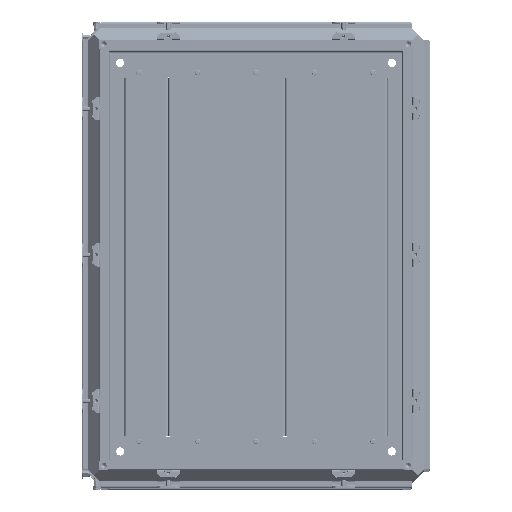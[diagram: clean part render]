
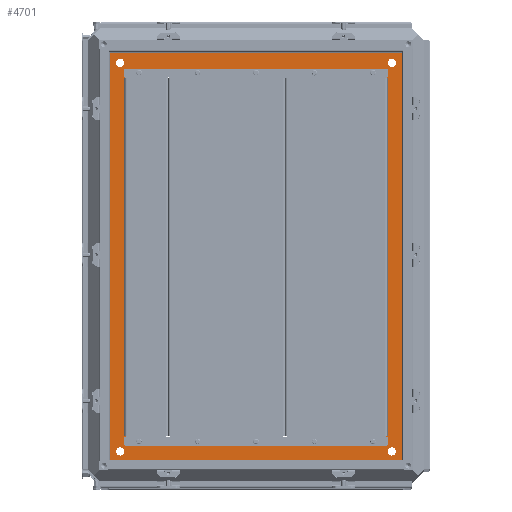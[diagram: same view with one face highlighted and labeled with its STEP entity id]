
A CAD part, top view. The second image highlights one B-rep face of the part: STEP entity #4701.
In plain terms, the highlighted planar face has unit normal (0, 0, 1).
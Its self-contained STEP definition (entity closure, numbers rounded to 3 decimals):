
#4701=ADVANCED_FACE('',(#18835,#18837,#18839,#18841,#18843,#18845),#18847,.F.);
#18835=FACE_BOUND('',#18836,.T.);
#18836=EDGE_LOOP('',(#128903,#128904,#128905,#128906));
#18837=FACE_BOUND('',#18838,.T.);
#18838=EDGE_LOOP('',(#128907,#128908,#128909,#128910));
#18839=FACE_BOUND('',#18840,.T.);
#18840=EDGE_LOOP('',(#128911));
#18841=FACE_BOUND('',#18842,.T.);
#18842=EDGE_LOOP('',(#128912));
#18843=FACE_BOUND('',#18844,.T.);
#18844=EDGE_LOOP('',(#128913));
#18845=FACE_BOUND('',#18846,.T.);
#18846=EDGE_LOOP('',(#128914));
#18847=PLANE('',#18848);
#18848=AXIS2_PLACEMENT_3D('',#18849,#18850,#18851);
#18849=CARTESIAN_POINT('',(0.,0.,-47.5));
#18850=DIRECTION('',(0.,0.,-1.));
#18851=DIRECTION('',(0.,1.,0.));
#128903=ORIENTED_EDGE('',*,*,#195973,.F.);
#128904=ORIENTED_EDGE('',*,*,#195974,.F.);
#128905=ORIENTED_EDGE('',*,*,#195975,.T.);
#128906=ORIENTED_EDGE('',*,*,#195976,.T.);
#128907=ORIENTED_EDGE('',*,*,#195977,.T.);
#128908=ORIENTED_EDGE('',*,*,#195978,.F.);
#128909=ORIENTED_EDGE('',*,*,#195979,.F.);
#128910=ORIENTED_EDGE('',*,*,#195980,.F.);
#128911=ORIENTED_EDGE('',*,*,#195981,.T.);
#128912=ORIENTED_EDGE('',*,*,#195982,.F.);
#128913=ORIENTED_EDGE('',*,*,#195983,.F.);
#128914=ORIENTED_EDGE('',*,*,#195984,.T.);
#195973=EDGE_CURVE('',#230424,#230425,#230426,.F.);
#195974=EDGE_CURVE('',#230427,#230424,#230428,.F.);
#195975=EDGE_CURVE('',#230427,#230429,#230430,.F.);
#195976=EDGE_CURVE('',#230429,#230425,#230431,.F.);
#195977=EDGE_CURVE('',#230432,#230433,#230434,.F.);
#195978=EDGE_CURVE('',#230435,#230433,#230436,.F.);
#195979=EDGE_CURVE('',#230437,#230435,#230438,.F.);
#195980=EDGE_CURVE('',#230432,#230437,#230439,.F.);
#195981=EDGE_CURVE('',#230440,#230440,#230441,.T.);
#195982=EDGE_CURVE('',#230442,#230442,#230443,.T.);
#195983=EDGE_CURVE('',#230444,#230444,#230445,.T.);
#195984=EDGE_CURVE('',#230446,#230446,#230447,.T.);
#230424=VERTEX_POINT('',#290345);
#230425=VERTEX_POINT('',#290346);
#230426=LINE('',#290347,#290348);
#230427=VERTEX_POINT('',#290350);
#230428=LINE('',#290351,#290352);
#230429=VERTEX_POINT('',#290354);
#230430=LINE('',#290355,#290356);
#230431=LINE('',#290358,#290359);
#230432=VERTEX_POINT('',#290361);
#230433=VERTEX_POINT('',#290362);
#230434=LINE('',#290363,#290364);
#230435=VERTEX_POINT('',#290366);
#230436=LINE('',#290367,#290368);
#230437=VERTEX_POINT('',#290370);
#230438=LINE('',#290371,#290372);
#230439=LINE('',#290374,#290375);
#230440=VERTEX_POINT('',#290377);
#230441=CIRCLE('',#290378,7.);
#230442=VERTEX_POINT('',#290382);
#230443=CIRCLE('',#290383,7.);
#230444=VERTEX_POINT('',#290387);
#230445=CIRCLE('',#290388,7.);
#230446=VERTEX_POINT('',#290392);
#230447=CIRCLE('',#290393,7.);
#290345=CARTESIAN_POINT('',(-1.6,1.6,-47.5));
#290346=CARTESIAN_POINT('',(-500.4,1.6,-47.5));
#290347=CARTESIAN_POINT('',(-500.4,1.6,-47.5));
#290348=VECTOR('',#290349,1.);
#290349=DIRECTION('',(1.,0.,0.));
#290350=CARTESIAN_POINT('',(-1.6,700.4,-47.5));
#290351=CARTESIAN_POINT('',(-1.6,1.6,-47.5));
#290352=VECTOR('',#290353,1.);
#290353=DIRECTION('',(0.,1.,0.));
#290354=CARTESIAN_POINT('',(-500.4,700.4,-47.5));
#290355=CARTESIAN_POINT('',(-500.4,700.4,-47.5));
#290356=VECTOR('',#290357,1.);
#290357=DIRECTION('',(1.,0.,0.));
#290358=CARTESIAN_POINT('',(-500.4,1.6,-47.5));
#290359=VECTOR('',#290360,1.);
#290360=DIRECTION('',(0.,1.,0.));
#290361=CARTESIAN_POINT('',(-39.4,39.4,-47.5));
#290362=CARTESIAN_POINT('',(-462.6,39.4,-47.5));
#290363=CARTESIAN_POINT('',(-462.6,39.4,-47.5));
#290364=VECTOR('',#290365,1.);
#290365=DIRECTION('',(1.,0.,0.));
#290366=CARTESIAN_POINT('',(-462.6,662.6,-47.5));
#290367=CARTESIAN_POINT('',(-462.6,39.4,-47.5));
#290368=VECTOR('',#290369,1.);
#290369=DIRECTION('',(0.,1.,0.));
#290370=CARTESIAN_POINT('',(-39.4,662.6,-47.5));
#290371=CARTESIAN_POINT('',(-462.6,662.6,-47.5));
#290372=VECTOR('',#290373,1.);
#290373=DIRECTION('',(1.,0.,0.));
#290374=CARTESIAN_POINT('',(-39.4,662.6,-47.5));
#290375=VECTOR('',#290376,1.);
#290376=DIRECTION('',(0.,-1.,0.));
#290377=CARTESIAN_POINT('',(-18.5,25.5,-47.5));
#290378=AXIS2_PLACEMENT_3D('',#290379,#290380,#290381);
#290379=CARTESIAN_POINT('',(-18.5,18.5,-47.5));
#290380=DIRECTION('',(0.,0.,-1.));
#290381=DIRECTION('',(0.,1.,0.));
#290382=CARTESIAN_POINT('',(-483.5,25.5,-47.5));
#290383=AXIS2_PLACEMENT_3D('',#290384,#290385,#290386);
#290384=CARTESIAN_POINT('',(-483.5,18.5,-47.5));
#290385=DIRECTION('',(0.,0.,1.));
#290386=DIRECTION('',(0.,1.,0.));
#290387=CARTESIAN_POINT('',(-18.5,676.5,-47.5));
#290388=AXIS2_PLACEMENT_3D('',#290389,#290390,#290391);
#290389=CARTESIAN_POINT('',(-18.5,683.5,-47.5));
#290390=DIRECTION('',(0.,0.,1.));
#290391=DIRECTION('',(0.,-1.,0.));
#290392=CARTESIAN_POINT('',(-483.5,676.5,-47.5));
#290393=AXIS2_PLACEMENT_3D('',#290394,#290395,#290396);
#290394=CARTESIAN_POINT('',(-483.5,683.5,-47.5));
#290395=DIRECTION('',(0.,0.,-1.));
#290396=DIRECTION('',(0.,-1.,0.));
